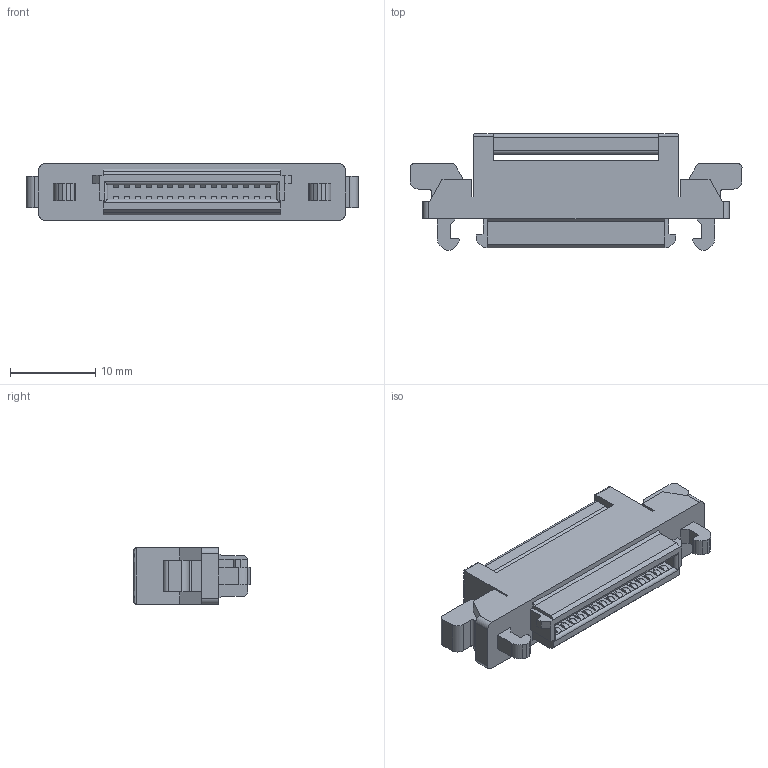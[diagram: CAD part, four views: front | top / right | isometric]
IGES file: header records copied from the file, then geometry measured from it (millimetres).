
Start section: Elysium IGES Interface
Global section: file name: 79HF:\図面登録\3DCAD\89XX\web用図面\4-IGES(図番_製品名)\P39478_8925E-030-179-F.igs; native system: CoCreate Modeling 17.0B  09-Oct-2010; preprocessor: CoCreate IGES_3D V2.2; author: Unknown; organization: Unknown; date: 20171102.183657; units: millimetre
Bounding box: 38.99 x 13.7 x 6.6 mm (x, y, z)
Volume: 2103.8 mm3; surface area: 1869.1 mm2
Topology: 1 solids, 1 shells, 294 faces, 852 edges, 562 vertices
Faces by surface type: bspline 294
